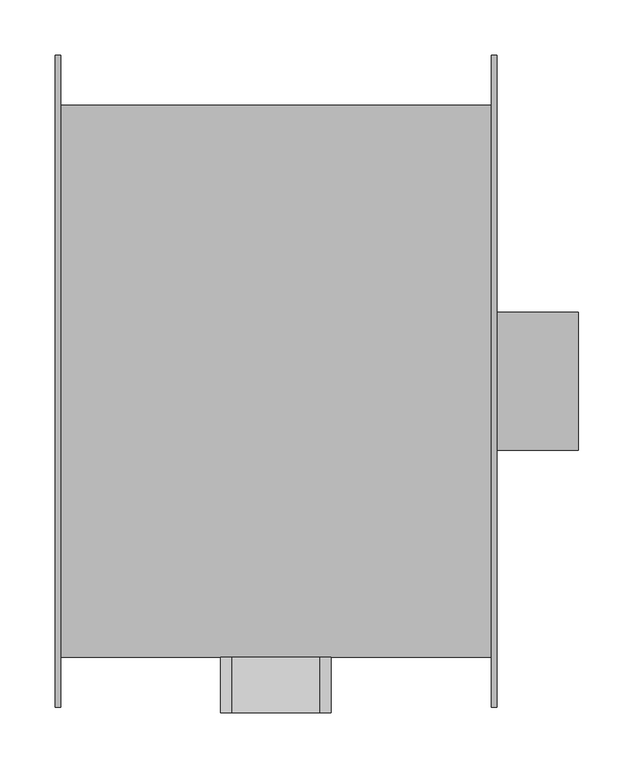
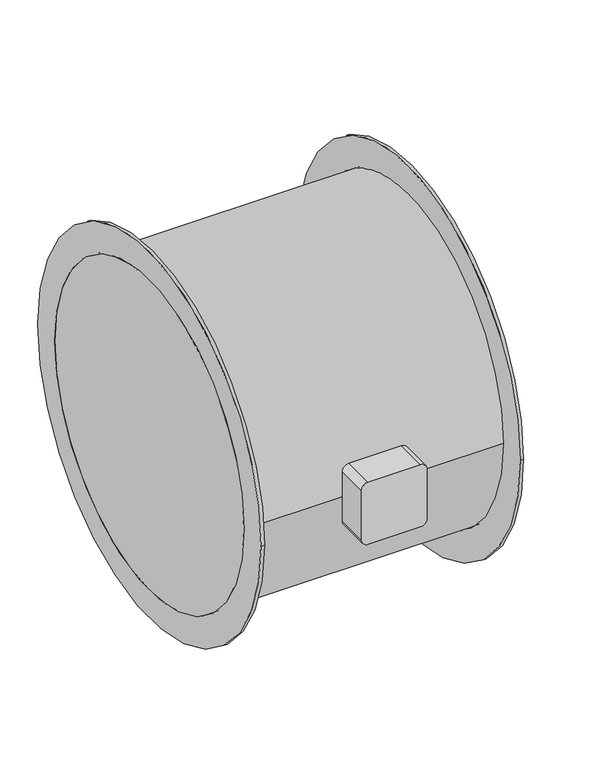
"""IFC4 building model written with IfcOpenShell, lengths in millimetres: unitary equipment geometry, VE-Wentylator-ParaForma-Harmann-AXER-Nawiewny : 500/2/14500T."""

from ifc_helpers import new_model, si_unit, point, frame, frame_2d, origin, origin_2d, place, context, project, spatial, polyline, circle_curve, trimmed, segment, composite_curve, outline, extrude, source, transform, mapped, element, save


def unitary_equipment_61c55f46(model_context):
    return source(origin(), model_context, "Body", "SweptSolid", [
        extrude(outline(composite_curve([segment(trimmed(circle_curve(origin_2d(), 62.5), [point((-62.5, 0.0))], [point((62.5, 0.0))], False, "CARTESIAN"), True, "CONTINUOUS"), segment(trimmed(circle_curve(origin_2d(), 62.5), [point((62.5, 0.0))], [point((-62.5, 0.0))], False, "CARTESIAN"), True, "CONTINUOUS")], self_intersect=False)), frame((200.0, 0.0, 0.0), z_axis=(1.0, 0.0, 0.0), x_axis=(0.0, 1.0, 0.0)), (0.0, 0.0, 1.0), 74.0),
        extrude(outline(composite_curve([segment(trimmed(circle_curve(frame_2d((-40.0, 40.0)), 10.0), [point((-50.0, 40.0))], [point((-40.0, 50.0))], False, "CARTESIAN"), True, "CONTINUOUS"), segment(polyline([(-40.0, 50.0), (40.0, 50.0)]), True, "CONTINUOUS"), segment(trimmed(circle_curve(frame_2d((40.0, 40.0)), 10.0), [point((40.0, 50.0))], [point((50.0, 40.0))], False, "CARTESIAN"), True, "CONTINUOUS"), segment(polyline([(50.0, 40.0), (50.0, -40.0)]), True, "CONTINUOUS"), segment(trimmed(circle_curve(frame_2d((40.0, -40.0)), 10.0), [point((50.0, -40.0))], [point((40.0, -50.0))], False, "CARTESIAN"), True, "CONTINUOUS"), segment(polyline([(40.0, -50.0), (-40.0, -50.0)]), True, "CONTINUOUS"), segment(trimmed(circle_curve(frame_2d((-40.0, -40.0)), 10.0), [point((-40.0, -50.0))], [point((-50.0, -40.0))], False, "CARTESIAN"), True, "CONTINUOUS"), segment(polyline([(-50.0, -40.0), (-50.0, 40.0)]), True, "CONTINUOUS")], self_intersect=False)), frame((0.0, -300.0, 0.0), z_axis=(0.0, 1.0, 0.0), x_axis=(0.0, 0.0, 1.0)), (0.0, 0.0, 1.0), 50.0),
        extrude(outline(composite_curve([segment(trimmed(circle_curve(origin_2d(), 295.0), [point((-295.0, 0.0))], [point((295.0, 0.0))], False, "CARTESIAN"), True, "CONTINUOUS"), segment(trimmed(circle_curve(origin_2d(), 295.0), [point((295.0, 0.0))], [point((-295.0, 0.0))], False, "CARTESIAN"), True, "CONTINUOUS")], self_intersect=False), holes=[composite_curve([segment(trimmed(circle_curve(origin_2d(), 250.0), [point((-250.0, 0.0))], [point((250.0, 0.0))], True, "CARTESIAN"), True, "CONTINUOUS"), segment(trimmed(circle_curve(origin_2d(), 250.0), [point((250.0, 0.0))], [point((-250.0, 0.0))], True, "CARTESIAN"), True, "CONTINUOUS")], self_intersect=False)]), frame((195.0, 0.0, 0.0), z_axis=(1.0, 0.0, 0.0), x_axis=(0.0, 1.0, 0.0)), (0.0, 0.0, 1.0), 5.0),
        extrude(outline(composite_curve([segment(trimmed(circle_curve(origin_2d(), 295.0), [point((-295.0, 0.0))], [point((295.0, 0.0))], False, "CARTESIAN"), True, "CONTINUOUS"), segment(trimmed(circle_curve(origin_2d(), 295.0), [point((295.0, 0.0))], [point((-295.0, 0.0))], False, "CARTESIAN"), True, "CONTINUOUS")], self_intersect=False), holes=[composite_curve([segment(trimmed(circle_curve(origin_2d(), 250.0), [point((-250.0, 0.0))], [point((250.0, 0.0))], True, "CARTESIAN"), True, "CONTINUOUS"), segment(trimmed(circle_curve(origin_2d(), 250.0), [point((250.0, 0.0))], [point((-250.0, 0.0))], True, "CARTESIAN"), True, "CONTINUOUS")], self_intersect=False)]), frame((-200.0, 0.0, 0.0), z_axis=(1.0, 0.0, 0.0), x_axis=(0.0, 1.0, 0.0)), (0.0, 0.0, 1.0), 5.0),
        extrude(outline(composite_curve([segment(trimmed(circle_curve(origin_2d(), 250.0), [point((-250.0, 0.0))], [point((250.0, 0.0))], False, "CARTESIAN"), True, "CONTINUOUS"), segment(trimmed(circle_curve(origin_2d(), 250.0), [point((250.0, 0.0))], [point((-250.0, 0.0))], False, "CARTESIAN"), True, "CONTINUOUS")], self_intersect=False)), frame((-200.0, 0.0, 0.0), z_axis=(1.0, 0.0, 0.0), x_axis=(0.0, 1.0, 0.0)), (0.0, 0.0, 1.0), 400.0),
    ])


if __name__ == "__main__":
    model = new_model("IFC4")
    model_context = context("Model", 3, world=origin())
    ifc_project = project(units=[si_unit("LENGTHUNIT", "METRE", prefix="MILLI")], contexts=[model_context])
    site = spatial("IfcSite", under=ifc_project)
    building = spatial("IfcBuilding", under=site)
    placement = place(None, origin())
    unitary_equipment_shape = unitary_equipment_61c55f46(model_context)
    element("IfcUnitaryEquipment", 1, ObjectType="VE-Wentylator-ParaForma-Harmann-AXER-Nawiewny : 500/2/14500T", at=placement, inside=building, context=model_context, shape_type="MappedRepresentation", body=[
        mapped(unitary_equipment_shape, transform((0.0, 0.0, 0.0), x_axis=(1.0, 0.0, 0.0), y_axis=(0.0, 1.0, 0.0), z_axis=(0.0, 0.0, 1.0))),
    ])
    save(model, "model.ifc")
